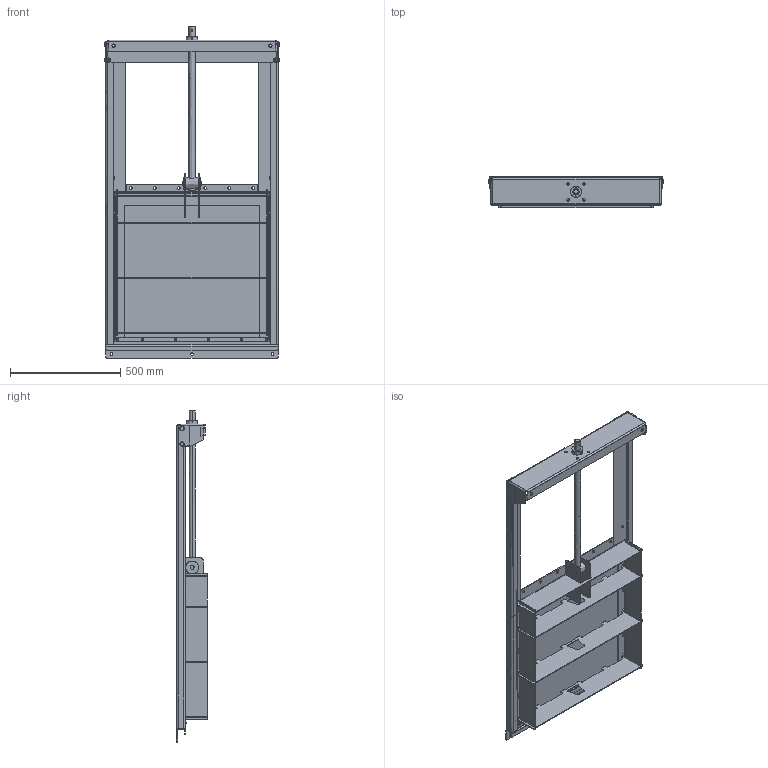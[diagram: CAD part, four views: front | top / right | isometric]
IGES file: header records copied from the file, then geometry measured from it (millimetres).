
Start section: SolidWorks IGES file using analytic representation for surfaces
Global section: file name: C:\Users\k.gigout\Desktop\3D\600x600\VGM620X-00EP0600.IGS; native system: SolidWorks 2017; preprocessor: SolidWorks 2017; author: k.gigout; date: 200410.114404; units: millimetre
Bounding box: 796.8 x 139 x 1504 mm (x, y, z)
Surface area: 4393589.4 mm2 (no closed solid volume)
Topology: 0 solids, 0 shells, 2594 faces, 34045 edges, 34037 vertices
Faces by surface type: bspline 1347, revolution 1247
